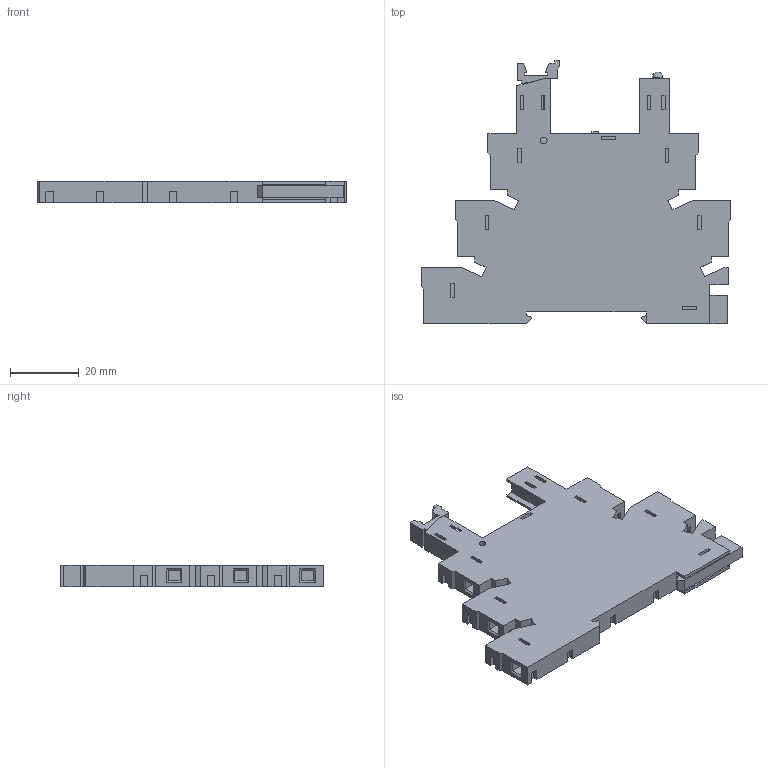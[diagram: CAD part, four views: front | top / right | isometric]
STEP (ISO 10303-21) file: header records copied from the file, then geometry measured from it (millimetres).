
FILE_DESCRIPTION (( 'STEP AP214' ), '1' );
FILE_NAME ('rms-23-1.ÃÌ Ðàçúåì äëÿ ðåëå ÐM slim 23-1 EKF.STEP', '2024-05-27T12:13:41', ( '' ), ( '' ), 'SwSTEP 2.0', 'SolidWorks 2021', '' );
FILE_SCHEMA (( 'AUTOMOTIVE_DESIGN' ));
Length unit declared in the file: millimetre
Products named in the file (1): rms-23-1.ÃÌ Ðàçúåì äëÿ ðåëå ÐM slim 23-1 EKF
Bounding box: 90.4 x 77 x 6.4 mm (x, y, z)
Volume: 25543 mm3; surface area: 13950 mm2
Topology: 9 solids, 9 shells, 613 faces, 1637 edges, 1083 vertices
Faces by surface type: plane 555, cylinder 45, bspline 12, sphere 1
Entity records: 19835 total; most frequent: CARTESIAN_POINT 3479, ORIENTED_EDGE 3270, DIRECTION 2925, EDGE_CURVE 1635, VECTOR 1501, LINE 1501, VERTEX_POINT 1082, AXIS2_PLACEMENT_3D 712
